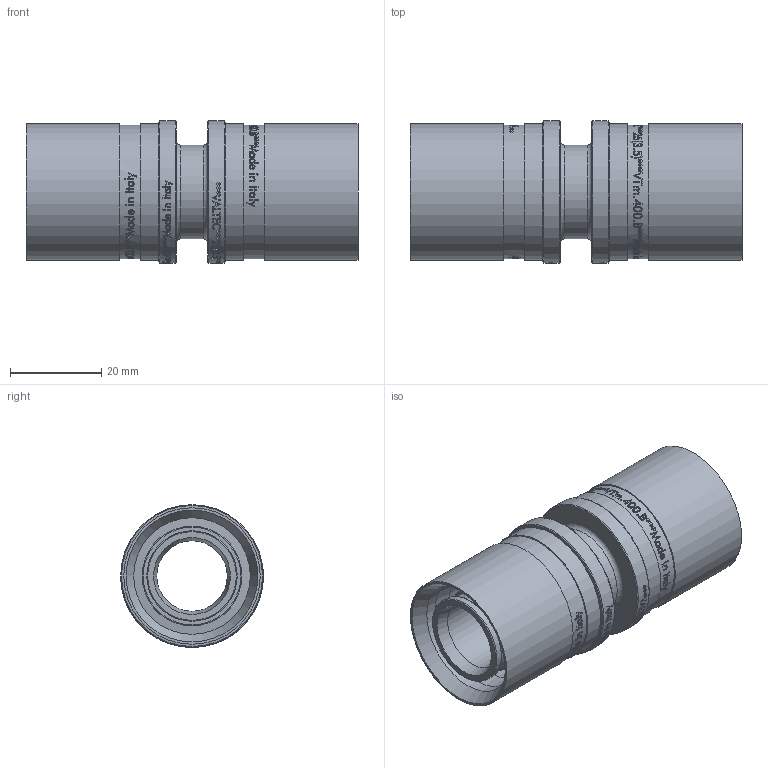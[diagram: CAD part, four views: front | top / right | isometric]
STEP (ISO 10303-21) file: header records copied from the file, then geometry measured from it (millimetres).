
FILE_DESCRIPTION(/* description */ (''),/* implementation_level */ '2;1');
FILE_NAME(/* name */ 'F:\Артём\00000\Работа удаленка\Аксеальные фитинги\VTm.403.BG.002525.stp',/* time_stamp */ '2021-01-26T11:06:52+03:00',/* author */ ('almis'),/* organization */ (''),/* preprocessor_version */ 'ST-DEVELOPER v18',/* originating_system */ 'Autodesk Inventor 2020',/* authorisation */ '');
FILE_SCHEMA (('AUTOMOTIVE_DESIGN { 1 0 10303 214 3 1 1 }'));
Length unit declared in the file: millimetre
Products named in the file (1): VTm.403.BG.002520
Bounding box: 72.63 x 31.2 x 31.2 mm (x, y, z)
Volume: 20505.1 mm3; surface area: 20898.8 mm2
Topology: 1 solids, 1 shells, 2532 faces, 6979 edges, 4688 vertices
Faces by surface type: bspline 1430, plane 796, cylinder 248, torus 46, cone 12
Full cylindrical faces by diameter (mm): 15.4 x1, 18.3 x10, 19.8 x8, 20.5 x1, 21.8 x2, 25.5 x4, 29.3 x2, 29.85 x4, 31.2 x2
Entity records: 106937 total; most frequent: CARTESIAN_POINT 51013, ORIENTED_EDGE 13958, DIRECTION 7447, EDGE_CURVE 6979, VERTEX_POINT 4688, LINE 2989, VECTOR 2989, B_SPLINE_CURVE_WITH_KNOTS 2864
